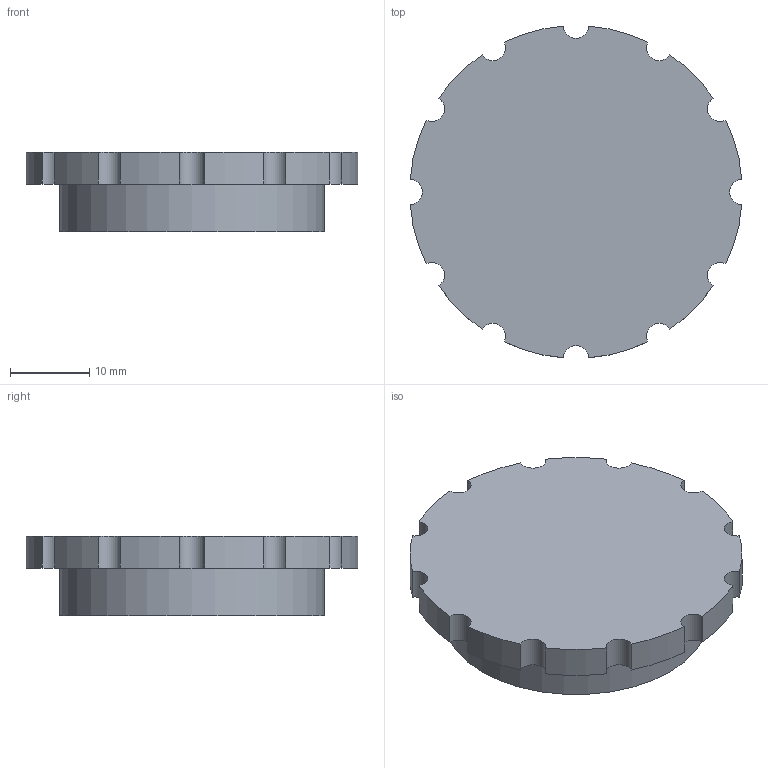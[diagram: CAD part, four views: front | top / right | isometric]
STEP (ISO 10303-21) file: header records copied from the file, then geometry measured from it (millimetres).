
FILE_DESCRIPTION(('Open CASCADE Model'),'2;1');
FILE_NAME('Open CASCADE Shape Model','2026-07-25T17:37:04',('Author'),( 'Open CASCADE'),'Open CASCADE STEP processor 7.9','build123d', 'Unknown');
FILE_SCHEMA(('AUTOMOTIVE_DESIGN { 1 0 10303 214 1 1 1 1 }'));
Length unit declared in the file: millimetre
Products named in the file (1): COMPOUND
Bounding box: 41.88 x 41.88 x 10 mm (x, y, z)
Volume: 10604.8 mm3; surface area: 3972.6 mm2
Topology: 1 solids, 1 shells, 574 faces, 1581 edges, 1054 vertices
Faces by surface type: extrusion 359, plane 190, cylinder 25
Full cylindrical faces by diameter (mm): 33.4 x1
Entity records: 43425 total; most frequent: CARTESIAN_POINT 15592, DIRECTION 3450, ORIENTED_EDGE 3162, PCURVE 3162, DEFINITIONAL_REPRESENTATION 3162, VECTOR 2873, LINE 2514, B_SPLINE_CURVE_WITH_KNOTS 2488
